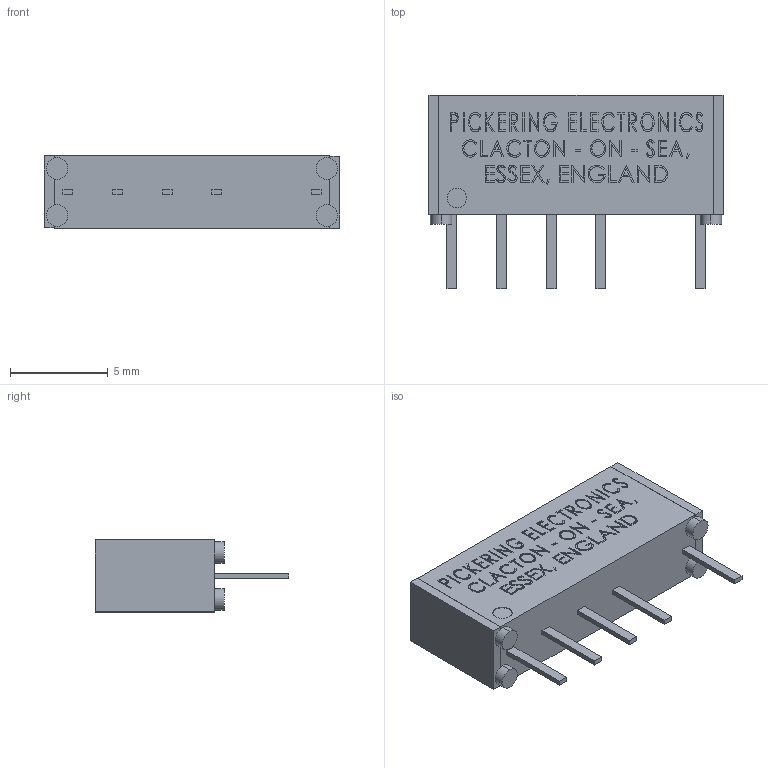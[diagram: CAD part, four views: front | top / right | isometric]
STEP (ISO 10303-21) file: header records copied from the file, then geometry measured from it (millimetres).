
FILE_DESCRIPTION (( 'STEP AP214' ), '1' );
FILE_NAME ('109-1-C-x-xx.STEP', '2010-11-26T11:24:53', ( ' ' ), ( '' ), 'SwSTEP 2.0', 'SolidWorks 2009', '' );
FILE_SCHEMA (( 'AUTOMOTIVE_DESIGN' ));
Length unit declared in the file: millimetre
Products named in the file (1): 109-1-C-x-xx
Bounding box: 15.1 x 9.9 x 3.7 mm (x, y, z)
Volume: 341 mm3; surface area: 486.6 mm2
Topology: 7 solids, 7 shells, 1009 faces, 2655 edges, 1770 vertices
Faces by surface type: plane 707, bspline 292, cylinder 10
Entity records: 57909 total; most frequent: CARTESIAN_POINT 33335, ORIENTED_EDGE 5310, DIRECTION 3527, EDGE_CURVE 2655, VECTOR 2051, LINE 2051, VERTEX_POINT 1770, EDGE_LOOP 1119
